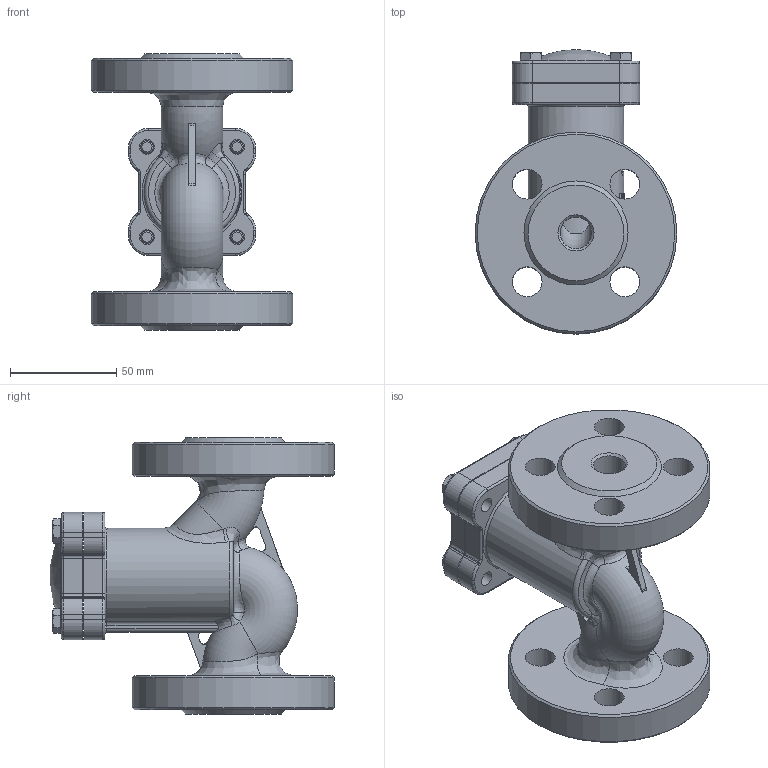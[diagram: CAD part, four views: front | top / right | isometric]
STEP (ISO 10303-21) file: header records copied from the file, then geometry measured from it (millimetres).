
FILE_DESCRIPTION(('STEP AP214'), '1');
FILE_NAME('VCR3131-F 孰囡囗 钺疣蝽 DN.ru 捏15 畜40', '2026-02-20T14:22:45', ('R2D2'), ('DN.ru'), 'C3D Converter', 'C3D Toolkit', '');
FILE_SCHEMA(('AUTOMOTIVE_DESIGN { 1 0 10303 214 3 1 1}'));
Length unit declared in the file: millimetre
Products named in the file (1): VCR3131-F
Bounding box: 95 x 133.88 x 130 mm (x, y, z)
Volume: 424768.4 mm3; surface area: 80358.3 mm2
Topology: 1 solids, 1 shells, 392 faces, 949 edges, 589 vertices
Faces by surface type: plane 155, cylinder 106, bspline 50, torus 44, cone 36, sphere 1
Full cylindrical faces by diameter (mm): 6 x4, 7 x8, 10 x4, 14 x8, 15 x3, 95 x2
Entity records: 23301 total; most frequent: CARTESIAN_POINT 12110, ORIENTED_EDGE 1802, DIRECTION 1746, EDGE_CURVE 901, AXIS2_PLACEMENT_3D 707, VERTEX_POINT 588, EDGE_LOOP 497, FACE_BOUND 433
